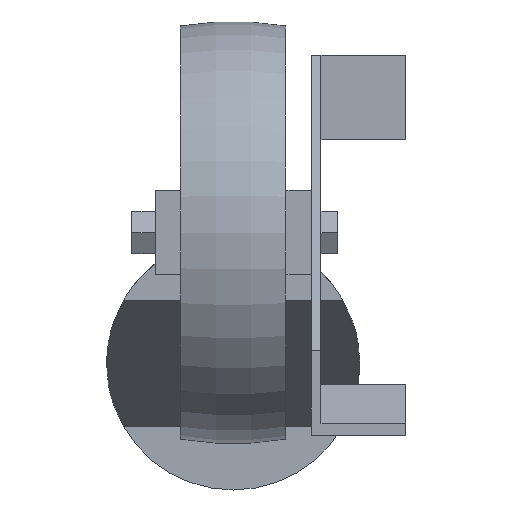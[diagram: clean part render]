
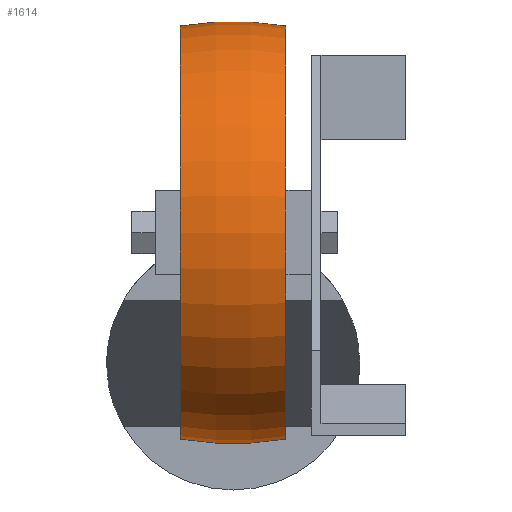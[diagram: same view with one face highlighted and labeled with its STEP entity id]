
A CAD part, front view. The second image highlights one B-rep face of the part: STEP entity #1614.
In plain terms, the highlighted toroidal (fillet/blend) face has major radius 25 mm and minor radius 75 mm.
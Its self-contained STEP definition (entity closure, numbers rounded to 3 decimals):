
#192 = DIRECTION ( 'NONE',  ( -1., 0., 0. ) ) ;
#195 = DIRECTION ( 'NONE',  ( 0., 0., 1. ) ) ;
#230 = CARTESIAN_POINT ( 'NONE',  ( 0., -78., 56. ) ) ;
#249 = EDGE_CURVE ( 'NONE', #325, #1125, #259, .T. ) ;
#259 = CIRCLE ( 'NONE', #1469, 48.951 ) ;
#273 = CIRCLE ( 'NONE', #1107, 75. ) ;
#305 = FACE_OUTER_BOUND ( 'NONE', #706, .T. ) ;
#315 = CARTESIAN_POINT ( 'NONE',  ( 0., -78., 31. ) ) ;
#325 = VERTEX_POINT ( 'NONE', #850 ) ;
#397 = ORIENTED_EDGE ( 'NONE', *, *, #249, .T. ) ;
#420 = AXIS2_PLACEMENT_3D ( 'NONE', #230, #1694, #489 ) ;
#455 = CARTESIAN_POINT ( 'NONE',  ( -12.5, -78., -17.951 ) ) ;
#466 = AXIS2_PLACEMENT_3D ( 'NONE', #315, #872, #195 ) ;
#481 = CIRCLE ( 'NONE', #560, 48.951 ) ;
#489 = DIRECTION ( 'NONE',  ( 0., 0., 1. ) ) ;
#534 = EDGE_CURVE ( 'NONE', #1664, #1136, #481, .T. ) ;
#535 = EDGE_CURVE ( 'NONE', #325, #1664, #1383, .T. ) ;
#560 = AXIS2_PLACEMENT_3D ( 'NONE', #867, #1543, #617 ) ;
#617 = DIRECTION ( 'NONE',  ( 0., 0., 1. ) ) ;
#687 = TOROIDAL_SURFACE ( 'NONE', #466, -25., 75. ) ;
#706 = EDGE_LOOP ( 'NONE', ( #1266, #397, #1153, #1434 ) ) ;
#802 = DIRECTION ( 'NONE',  ( 0., 0., -1. ) ) ;
#831 = DIRECTION ( 'NONE',  ( 0., 0., 1. ) ) ;
#850 = CARTESIAN_POINT ( 'NONE',  ( 12.5, -78., -17.951 ) ) ;
#867 = CARTESIAN_POINT ( 'NONE',  ( -12.5, -78., 31. ) ) ;
#872 = DIRECTION ( 'NONE',  ( -1., 0., 0. ) ) ;
#1079 = CARTESIAN_POINT ( 'NONE',  ( 12.5, -78., 79.951 ) ) ;
#1082 = EDGE_CURVE ( 'NONE', #1125, #1136, #273, .T. ) ;
#1103 = CARTESIAN_POINT ( 'NONE',  ( 12.5, -78., 31. ) ) ;
#1107 = AXIS2_PLACEMENT_3D ( 'NONE', #1227, #1474, #802 ) ;
#1125 = VERTEX_POINT ( 'NONE', #1079 ) ;
#1136 = VERTEX_POINT ( 'NONE', #1625 ) ;
#1153 = ORIENTED_EDGE ( 'NONE', *, *, #1082, .T. ) ;
#1227 = CARTESIAN_POINT ( 'NONE',  ( 0., -78., 6. ) ) ;
#1266 = ORIENTED_EDGE ( 'NONE', *, *, #535, .F. ) ;
#1383 = CIRCLE ( 'NONE', #420, 75. ) ;
#1434 = ORIENTED_EDGE ( 'NONE', *, *, #534, .F. ) ;
#1469 = AXIS2_PLACEMENT_3D ( 'NONE', #1103, #192, #831 ) ;
#1474 = DIRECTION ( 'NONE',  ( 0., -1., 0. ) ) ;
#1543 = DIRECTION ( 'NONE',  ( -1., 0., 0. ) ) ;
#1614 = ADVANCED_FACE ( 'NONE', ( #305 ), #687, .T. ) ;
#1625 = CARTESIAN_POINT ( 'NONE',  ( -12.5, -78., 79.951 ) ) ;
#1664 = VERTEX_POINT ( 'NONE', #455 ) ;
#1694 = DIRECTION ( 'NONE',  ( 0., 1., 0. ) ) ;
